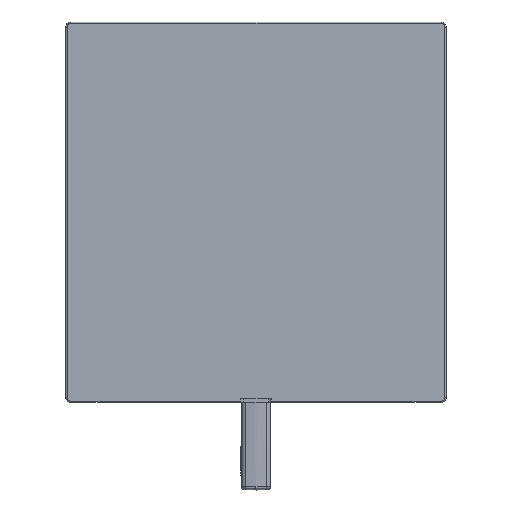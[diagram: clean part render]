
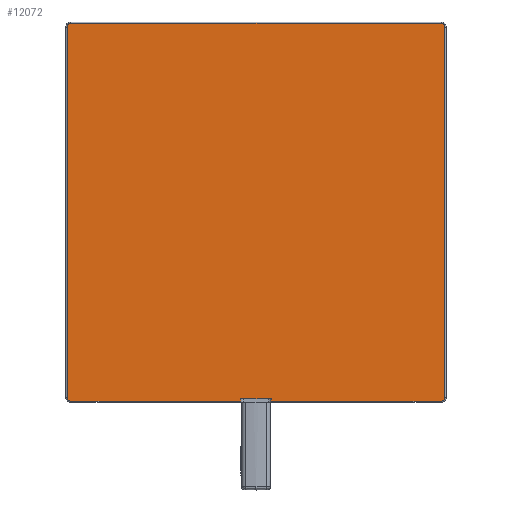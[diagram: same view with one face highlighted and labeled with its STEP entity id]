
A CAD part, left-side view. The second image highlights one B-rep face of the part: STEP entity #12072.
In plain terms, the highlighted planar face has unit normal (-1, 0, 0).
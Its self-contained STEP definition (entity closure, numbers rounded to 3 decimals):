
#3286=DIRECTION('',(0.,0.,1.));
#3287=VECTOR('',#3286,145.974);
#3288=CARTESIAN_POINT('',(59.,74.487,-72.987));
#3289=LINE('',#3288,#3287);
#3299=CARTESIAN_POINT('',(59.,74.487,72.987));
#3300=CARTESIAN_POINT('',(59.,74.487,73.058));
#3301=CARTESIAN_POINT('',(59.,74.477,73.199));
#3302=CARTESIAN_POINT('',(59.,74.431,73.41));
#3303=CARTESIAN_POINT('',(59.,74.356,73.612));
#3304=CARTESIAN_POINT('',(59.,74.253,73.8));
#3305=CARTESIAN_POINT('',(59.,74.124,73.973));
#3306=CARTESIAN_POINT('',(59.,73.973,74.124));
#3307=CARTESIAN_POINT('',(59.,73.8,74.253));
#3308=CARTESIAN_POINT('',(59.,73.612,74.356));
#3309=CARTESIAN_POINT('',(59.,73.41,74.431));
#3310=CARTESIAN_POINT('',(59.,73.199,74.477));
#3311=CARTESIAN_POINT('',(59.,73.058,74.487));
#3312=CARTESIAN_POINT('',(59.,72.987,74.487));
#3319=DIRECTION('',(0.,-1.,0.));
#3320=VECTOR('',#3319,145.974);
#3321=CARTESIAN_POINT('',(59.,72.987,74.487));
#3322=LINE('',#3321,#3320);
#3332=CARTESIAN_POINT('',(59.,-72.987,74.487));
#3333=CARTESIAN_POINT('',(59.,-73.058,74.487));
#3334=CARTESIAN_POINT('',(59.,-73.199,74.477));
#3335=CARTESIAN_POINT('',(59.,-73.41,74.431));
#3336=CARTESIAN_POINT('',(59.,-73.612,74.356));
#3337=CARTESIAN_POINT('',(59.,-73.8,74.253));
#3338=CARTESIAN_POINT('',(59.,-73.973,74.124));
#3339=CARTESIAN_POINT('',(59.,-74.124,73.973));
#3340=CARTESIAN_POINT('',(59.,-74.253,73.8));
#3341=CARTESIAN_POINT('',(59.,-74.356,73.612));
#3342=CARTESIAN_POINT('',(59.,-74.431,73.41));
#3343=CARTESIAN_POINT('',(59.,-74.477,73.199));
#3344=CARTESIAN_POINT('',(59.,-74.487,73.058));
#3345=CARTESIAN_POINT('',(59.,-74.487,72.987));
#3352=DIRECTION('',(0.,0.,-1.));
#3353=VECTOR('',#3352,145.974);
#3354=CARTESIAN_POINT('',(59.,-74.487,72.987));
#3355=LINE('',#3354,#3353);
#3365=CARTESIAN_POINT('',(59.,-74.487,
-72.987));
#3366=CARTESIAN_POINT('',(59.,-74.487,
-73.058));
#3367=CARTESIAN_POINT('',(59.,-74.477,
-73.199));
#3368=CARTESIAN_POINT('',(59.,-74.431,-73.41));
#3369=CARTESIAN_POINT('',(59.,-74.356,-73.612));
#3370=CARTESIAN_POINT('',(59.,-74.253,-73.8));
#3371=CARTESIAN_POINT('',(59.,-74.124,-73.973));
#3372=CARTESIAN_POINT('',(59.,-73.973,-74.124));
#3373=CARTESIAN_POINT('',(59.,-73.8,-74.253));
#3374=CARTESIAN_POINT('',(59.,-73.612,-74.356));
#3375=CARTESIAN_POINT('',(59.,-73.41,-74.431));
#3376=CARTESIAN_POINT('',(59.,-73.199,-74.477));
#3377=CARTESIAN_POINT('',(59.,-73.058,-74.487));
#3378=CARTESIAN_POINT('',(59.,-72.987,-74.487));
#3394=DIRECTION('',(0.,1.,0.));
#3395=VECTOR('',#3394,66.987);
#3396=CARTESIAN_POINT('',(59.,-72.987,-74.487));
#3397=LINE('',#3396,#3395);
#3434=DIRECTION('',(0.,1.,0.));
#3435=VECTOR('',#3434,66.987);
#3436=CARTESIAN_POINT('',(59.,6.,-74.487));
#3437=LINE('',#3436,#3435);
#3448=CARTESIAN_POINT('',(59.,6.,-74.487));
#3454=DIRECTION('',(0.,-1.,0.));
#3455=VECTOR('',#3454,12.);
#3456=CARTESIAN_POINT('',(59.,6.,-73.474));
#3457=LINE('',#3456,#3455);
#3458=DIRECTION('',(0.,0.,1.));
#3459=VECTOR('',#3458,1.012);
#3460=CARTESIAN_POINT('',(59.,6.,-74.487));
#3461=LINE('',#3460,#3459);
#3466=DIRECTION('',(0.,0.,1.));
#3467=VECTOR('',#3466,1.012);
#3468=CARTESIAN_POINT('',(59.,-6.,-74.487));
#3469=LINE('',#3468,#3467);
#3480=CARTESIAN_POINT('',(59.,-6.,-74.487));
#3533=CARTESIAN_POINT('',(59.,72.987,-74.487));
#3534=CARTESIAN_POINT('',(59.,73.058,-74.487));
#3535=CARTESIAN_POINT('',(59.,73.199,-74.477));
#3536=CARTESIAN_POINT('',(59.,73.41,-74.431));
#3537=CARTESIAN_POINT('',(59.,73.612,-74.356));
#3538=CARTESIAN_POINT('',(59.,73.8,-74.253));
#3539=CARTESIAN_POINT('',(59.,73.973,-74.124));
#3540=CARTESIAN_POINT('',(59.,74.124,-73.973));
#3541=CARTESIAN_POINT('',(59.,74.253,-73.8));
#3542=CARTESIAN_POINT('',(59.,74.356,-73.612));
#3543=CARTESIAN_POINT('',(59.,74.431,-73.41));
#3544=CARTESIAN_POINT('',(59.,74.477,-73.199));
#3545=CARTESIAN_POINT('',(59.,74.487,-73.058));
#3546=CARTESIAN_POINT('',(59.,74.487,-72.987));
#3692=VERTEX_POINT('',#3448);
#3701=VERTEX_POINT('',#3480);
#3702=CARTESIAN_POINT('',(59.,-72.987,-74.487));
#3703=VERTEX_POINT('',#3702);
#3704=VERTEX_POINT('',#3365);
#3705=CARTESIAN_POINT('',(59.,-74.487,72.987));
#3706=VERTEX_POINT('',#3705);
#3707=VERTEX_POINT('',#3332);
#3708=CARTESIAN_POINT('',(59.,72.987,74.487));
#3709=VERTEX_POINT('',#3708);
#3710=VERTEX_POINT('',#3299);
#3711=CARTESIAN_POINT('',(59.,74.487,-72.987));
#3712=VERTEX_POINT('',#3711);
#3713=VERTEX_POINT('',#3533);
#3769=CARTESIAN_POINT('',(59.,6.,-73.474));
#3771=VERTEX_POINT('',#3769);
#3779=CARTESIAN_POINT('',(59.,-6.,-73.474));
#3780=VERTEX_POINT('',#3779);
#12049=CARTESIAN_POINT('',(59.,0.,0.));
#12050=DIRECTION('',(1.,0.,0.));
#12051=DIRECTION('',(0.,1.,0.));
#12052=AXIS2_PLACEMENT_3D('',#12049,#12050,#12051);
#12053=PLANE('',#12052);
#12055=ORIENTED_EDGE('',*,*,#12054,.T.);
#12057=ORIENTED_EDGE('',*,*,#12056,.F.);
#12059=ORIENTED_EDGE('',*,*,#12058,.F.);
#12060=ORIENTED_EDGE('',*,*,#12039,.T.);
#12062=ORIENTED_EDGE('',*,*,#12061,.T.);
#12063=ORIENTED_EDGE('',*,*,#11773,.T.);
#12064=ORIENTED_EDGE('',*,*,#11833,.T.);
#12065=ORIENTED_EDGE('',*,*,#11847,.T.);
#12066=ORIENTED_EDGE('',*,*,#11906,.T.);
#12067=ORIENTED_EDGE('',*,*,#11921,.T.);
#12068=ORIENTED_EDGE('',*,*,#11981,.T.);
#12069=ORIENTED_EDGE('',*,*,#12000,.T.);
#12070=EDGE_LOOP('',(#12055,#12057,#12059,#12060,#12062,#12063,#12064,#12065,
#12066,#12067,#12068,#12069));
#12071=FACE_OUTER_BOUND('',#12070,.F.);
#12072=ADVANCED_FACE('',(#12071),#12053,.F.);
#3313=B_SPLINE_CURVE_WITH_KNOTS('',3,(#3299,#3300,#3301,#3302,#3303,#3304,#3305,
#3306,#3307,#3308,#3309,#3310,#3311,#3312),.UNSPECIFIED.,.F.,.F.,(4,1,1,1,1,1,1,
1,1,1,1,4),(0.,0.091,0.182,0.273,
0.364,0.455,0.545,0.636,
0.727,0.818,0.909,1.),.UNSPECIFIED.);
#3346=B_SPLINE_CURVE_WITH_KNOTS('',3,(#3332,#3333,#3334,#3335,#3336,#3337,#3338,
#3339,#3340,#3341,#3342,#3343,#3344,#3345),.UNSPECIFIED.,.F.,.F.,(4,1,1,1,1,1,1,
1,1,1,1,4),(0.,0.091,0.182,0.273,
0.364,0.455,0.545,0.636,
0.727,0.818,0.909,1.),.UNSPECIFIED.);
#3379=B_SPLINE_CURVE_WITH_KNOTS('',3,(#3365,#3366,#3367,#3368,#3369,#3370,#3371,
#3372,#3373,#3374,#3375,#3376,#3377,#3378),.UNSPECIFIED.,.F.,.F.,(4,1,1,1,1,1,1,
1,1,1,1,4),(0.,0.091,0.182,0.273,
0.364,0.455,0.545,0.636,
0.727,0.818,0.909,1.),.UNSPECIFIED.);
#3547=B_SPLINE_CURVE_WITH_KNOTS('',3,(#3533,#3534,#3535,#3536,#3537,#3538,#3539,
#3540,#3541,#3542,#3543,#3544,#3545,#3546),.UNSPECIFIED.,.F.,.F.,(4,1,1,1,1,1,1,
1,1,1,1,4),(0.,0.091,0.182,0.273,
0.364,0.455,0.545,0.636,
0.727,0.818,0.909,1.),.UNSPECIFIED.);
#11773=EDGE_CURVE('',#3712,#3710,#3289,.T.);
#11833=EDGE_CURVE('',#3710,#3709,#3313,.T.);
#11847=EDGE_CURVE('',#3709,#3707,#3322,.T.);
#11906=EDGE_CURVE('',#3707,#3706,#3346,.T.);
#11921=EDGE_CURVE('',#3706,#3704,#3355,.T.);
#11981=EDGE_CURVE('',#3704,#3703,#3379,.T.);
#12000=EDGE_CURVE('',#3703,#3701,#3397,.T.);
#12039=EDGE_CURVE('',#3692,#3713,#3437,.T.);
#12054=EDGE_CURVE('',#3701,#3780,#3469,.T.);
#12056=EDGE_CURVE('',#3771,#3780,#3457,.T.);
#12058=EDGE_CURVE('',#3692,#3771,#3461,.T.);
#12061=EDGE_CURVE('',#3713,#3712,#3547,.T.);
